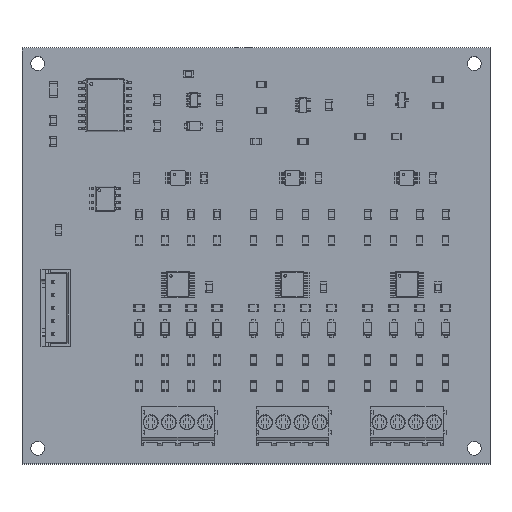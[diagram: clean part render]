
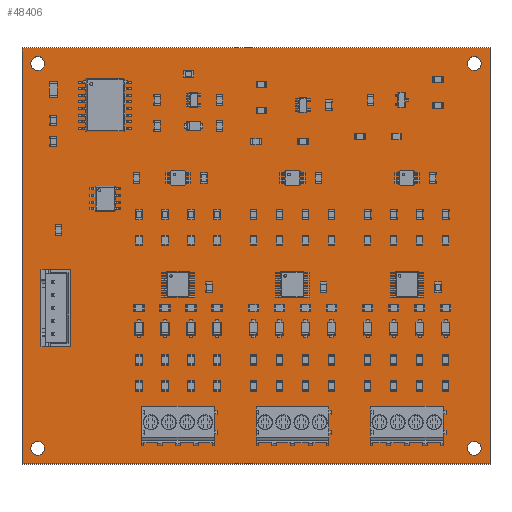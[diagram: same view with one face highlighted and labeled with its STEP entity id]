
A CAD part, top view. The second image highlights one B-rep face of the part: STEP entity #48406.
In plain terms, the highlighted planar face has unit normal (0, 0, 1).
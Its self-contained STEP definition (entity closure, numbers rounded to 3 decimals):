
#48063 = VERTEX_POINT('',#48064);
#48064 = CARTESIAN_POINT('',(90.,-80.,1.51));
#48070 = EDGE_CURVE('',#48063,#48071,#48073,.T.);
#48071 = VERTEX_POINT('',#48072);
#48072 = CARTESIAN_POINT('',(0.,-80.,1.51));
#48073 = LINE('',#48074,#48075);
#48074 = CARTESIAN_POINT('',(90.,-80.,1.51));
#48075 = VECTOR('',#48076,1.);
#48076 = DIRECTION('',(-1.,0.,0.));
#48103 = VERTEX_POINT('',#48104);
#48104 = CARTESIAN_POINT('',(90.,0.,1.51));
#48110 = EDGE_CURVE('',#48103,#48063,#48111,.T.);
#48111 = LINE('',#48112,#48113);
#48112 = CARTESIAN_POINT('',(90.,0.,1.51));
#48113 = VECTOR('',#48114,1.);
#48114 = DIRECTION('',(0.,-1.,0.));
#48132 = EDGE_CURVE('',#48071,#48133,#48135,.T.);
#48133 = VERTEX_POINT('',#48134);
#48134 = CARTESIAN_POINT('',(0.,0.,1.51));
#48135 = LINE('',#48136,#48137);
#48136 = CARTESIAN_POINT('',(0.,-80.,1.51));
#48137 = VECTOR('',#48138,1.);
#48138 = DIRECTION('',(0.,1.,0.));
#48406 = ADVANCED_FACE('',(#48407,#48418,#48429,#48440,#48451,#48462,
    #48473,#48484,#48495,#48506,#48517,#48528,#48539,#48550,#48561,
    #48572,#48583,#48594,#48605,#48616,#48627,#48638),#48649,.T.);
#48407 = FACE_BOUND('',#48408,.T.);
#48408 = EDGE_LOOP('',(#48409,#48410,#48411,#48417));
#48409 = ORIENTED_EDGE('',*,*,#48070,.F.);
#48410 = ORIENTED_EDGE('',*,*,#48110,.F.);
#48411 = ORIENTED_EDGE('',*,*,#48412,.F.);
#48412 = EDGE_CURVE('',#48133,#48103,#48413,.T.);
#48413 = LINE('',#48414,#48415);
#48414 = CARTESIAN_POINT('',(0.,0.,1.51));
#48415 = VECTOR('',#48416,1.);
#48416 = DIRECTION('',(1.,0.,0.));
#48417 = ORIENTED_EDGE('',*,*,#48132,.F.);
#48418 = FACE_BOUND('',#48419,.T.);
#48419 = EDGE_LOOP('',(#48420));
#48420 = ORIENTED_EDGE('',*,*,#48421,.T.);
#48421 = EDGE_CURVE('',#48422,#48422,#48424,.T.);
#48422 = VERTEX_POINT('',#48423);
#48423 = CARTESIAN_POINT('',(3.,-78.35,1.51));
#48424 = CIRCLE('',#48425,1.35);
#48425 = AXIS2_PLACEMENT_3D('',#48426,#48427,#48428);
#48426 = CARTESIAN_POINT('',(3.,-77.,1.51));
#48427 = DIRECTION('',(-0.,0.,-1.));
#48428 = DIRECTION('',(-0.,-1.,0.));
#48429 = FACE_BOUND('',#48430,.T.);
#48430 = EDGE_LOOP('',(#48431));
#48431 = ORIENTED_EDGE('',*,*,#48432,.T.);
#48432 = EDGE_CURVE('',#48433,#48433,#48435,.T.);
#48433 = VERTEX_POINT('',#48434);
#48434 = CARTESIAN_POINT('',(24.75,-72.6,1.51));
#48435 = CIRCLE('',#48436,0.6);
#48436 = AXIS2_PLACEMENT_3D('',#48437,#48438,#48439);
#48437 = CARTESIAN_POINT('',(24.75,-72.,1.51));
#48438 = DIRECTION('',(-0.,0.,-1.));
#48439 = DIRECTION('',(-0.,-1.,0.));
#48440 = FACE_BOUND('',#48441,.T.);
#48441 = EDGE_LOOP('',(#48442));
#48442 = ORIENTED_EDGE('',*,*,#48443,.T.);
#48443 = EDGE_CURVE('',#48444,#48444,#48446,.T.);
#48444 = VERTEX_POINT('',#48445);
#48445 = CARTESIAN_POINT('',(28.25,-72.6,1.51));
#48446 = CIRCLE('',#48447,0.6);
#48447 = AXIS2_PLACEMENT_3D('',#48448,#48449,#48450);
#48448 = CARTESIAN_POINT('',(28.25,-72.,1.51));
#48449 = DIRECTION('',(-0.,0.,-1.));
#48450 = DIRECTION('',(-0.,-1.,0.));
#48451 = FACE_BOUND('',#48452,.T.);
#48452 = EDGE_LOOP('',(#48453));
#48453 = ORIENTED_EDGE('',*,*,#48454,.T.);
#48454 = EDGE_CURVE('',#48455,#48455,#48457,.T.);
#48455 = VERTEX_POINT('',#48456);
#48456 = CARTESIAN_POINT('',(31.75,-72.6,1.51));
#48457 = CIRCLE('',#48458,0.6);
#48458 = AXIS2_PLACEMENT_3D('',#48459,#48460,#48461);
#48459 = CARTESIAN_POINT('',(31.75,-72.,1.51));
#48460 = DIRECTION('',(-0.,0.,-1.));
#48461 = DIRECTION('',(-0.,-1.,0.));
#48462 = FACE_BOUND('',#48463,.T.);
#48463 = EDGE_LOOP('',(#48464));
#48464 = ORIENTED_EDGE('',*,*,#48465,.T.);
#48465 = EDGE_CURVE('',#48466,#48466,#48468,.T.);
#48466 = VERTEX_POINT('',#48467);
#48467 = CARTESIAN_POINT('',(35.25,-72.6,1.51));
#48468 = CIRCLE('',#48469,0.6);
#48469 = AXIS2_PLACEMENT_3D('',#48470,#48471,#48472);
#48470 = CARTESIAN_POINT('',(35.25,-72.,1.51));
#48471 = DIRECTION('',(-0.,0.,-1.));
#48472 = DIRECTION('',(-0.,-1.,0.));
#48473 = FACE_BOUND('',#48474,.T.);
#48474 = EDGE_LOOP('',(#48475));
#48475 = ORIENTED_EDGE('',*,*,#48476,.T.);
#48476 = EDGE_CURVE('',#48477,#48477,#48479,.T.);
#48477 = VERTEX_POINT('',#48478);
#48478 = CARTESIAN_POINT('',(6.,-55.475,1.51));
#48479 = CIRCLE('',#48480,0.475);
#48480 = AXIS2_PLACEMENT_3D('',#48481,#48482,#48483);
#48481 = CARTESIAN_POINT('',(6.,-55.,1.51));
#48482 = DIRECTION('',(-0.,0.,-1.));
#48483 = DIRECTION('',(-0.,-1.,0.));
#48484 = FACE_BOUND('',#48485,.T.);
#48485 = EDGE_LOOP('',(#48486));
#48486 = ORIENTED_EDGE('',*,*,#48487,.T.);
#48487 = EDGE_CURVE('',#48488,#48488,#48490,.T.);
#48488 = VERTEX_POINT('',#48489);
#48489 = CARTESIAN_POINT('',(6.,-52.975,1.51));
#48490 = CIRCLE('',#48491,0.475);
#48491 = AXIS2_PLACEMENT_3D('',#48492,#48493,#48494);
#48492 = CARTESIAN_POINT('',(6.,-52.5,1.51));
#48493 = DIRECTION('',(-0.,0.,-1.));
#48494 = DIRECTION('',(-0.,-1.,0.));
#48495 = FACE_BOUND('',#48496,.T.);
#48496 = EDGE_LOOP('',(#48497));
#48497 = ORIENTED_EDGE('',*,*,#48498,.T.);
#48498 = EDGE_CURVE('',#48499,#48499,#48501,.T.);
#48499 = VERTEX_POINT('',#48500);
#48500 = CARTESIAN_POINT('',(6.,-50.475,1.51));
#48501 = CIRCLE('',#48502,0.475);
#48502 = AXIS2_PLACEMENT_3D('',#48503,#48504,#48505);
#48503 = CARTESIAN_POINT('',(6.,-50.,1.51));
#48504 = DIRECTION('',(-0.,0.,-1.));
#48505 = DIRECTION('',(-0.,-1.,0.));
#48506 = FACE_BOUND('',#48507,.T.);
#48507 = EDGE_LOOP('',(#48508));
#48508 = ORIENTED_EDGE('',*,*,#48509,.T.);
#48509 = EDGE_CURVE('',#48510,#48510,#48512,.T.);
#48510 = VERTEX_POINT('',#48511);
#48511 = CARTESIAN_POINT('',(6.,-47.975,1.51));
#48512 = CIRCLE('',#48513,0.475);
#48513 = AXIS2_PLACEMENT_3D('',#48514,#48515,#48516);
#48514 = CARTESIAN_POINT('',(6.,-47.5,1.51));
#48515 = DIRECTION('',(-0.,0.,-1.));
#48516 = DIRECTION('',(-0.,-1.,0.));
#48517 = FACE_BOUND('',#48518,.T.);
#48518 = EDGE_LOOP('',(#48519));
#48519 = ORIENTED_EDGE('',*,*,#48520,.T.);
#48520 = EDGE_CURVE('',#48521,#48521,#48523,.T.);
#48521 = VERTEX_POINT('',#48522);
#48522 = CARTESIAN_POINT('',(6.,-45.475,1.51));
#48523 = CIRCLE('',#48524,0.475);
#48524 = AXIS2_PLACEMENT_3D('',#48525,#48526,#48527);
#48525 = CARTESIAN_POINT('',(6.,-45.,1.51));
#48526 = DIRECTION('',(-0.,0.,-1.));
#48527 = DIRECTION('',(-0.,-1.,0.));
#48528 = FACE_BOUND('',#48529,.T.);
#48529 = EDGE_LOOP('',(#48530));
#48530 = ORIENTED_EDGE('',*,*,#48531,.T.);
#48531 = EDGE_CURVE('',#48532,#48532,#48534,.T.);
#48532 = VERTEX_POINT('',#48533);
#48533 = CARTESIAN_POINT('',(46.75,-72.6,1.51));
#48534 = CIRCLE('',#48535,0.6);
#48535 = AXIS2_PLACEMENT_3D('',#48536,#48537,#48538);
#48536 = CARTESIAN_POINT('',(46.75,-72.,1.51));
#48537 = DIRECTION('',(-0.,0.,-1.));
#48538 = DIRECTION('',(-0.,-1.,0.));
#48539 = FACE_BOUND('',#48540,.T.);
#48540 = EDGE_LOOP('',(#48541));
#48541 = ORIENTED_EDGE('',*,*,#48542,.T.);
#48542 = EDGE_CURVE('',#48543,#48543,#48545,.T.);
#48543 = VERTEX_POINT('',#48544);
#48544 = CARTESIAN_POINT('',(50.25,-72.6,1.51));
#48545 = CIRCLE('',#48546,0.6);
#48546 = AXIS2_PLACEMENT_3D('',#48547,#48548,#48549);
#48547 = CARTESIAN_POINT('',(50.25,-72.,1.51));
#48548 = DIRECTION('',(-0.,0.,-1.));
#48549 = DIRECTION('',(-0.,-1.,0.));
#48550 = FACE_BOUND('',#48551,.T.);
#48551 = EDGE_LOOP('',(#48552));
#48552 = ORIENTED_EDGE('',*,*,#48553,.T.);
#48553 = EDGE_CURVE('',#48554,#48554,#48556,.T.);
#48554 = VERTEX_POINT('',#48555);
#48555 = CARTESIAN_POINT('',(53.75,-72.6,1.51));
#48556 = CIRCLE('',#48557,0.6);
#48557 = AXIS2_PLACEMENT_3D('',#48558,#48559,#48560);
#48558 = CARTESIAN_POINT('',(53.75,-72.,1.51));
#48559 = DIRECTION('',(-0.,0.,-1.));
#48560 = DIRECTION('',(-0.,-1.,0.));
#48561 = FACE_BOUND('',#48562,.T.);
#48562 = EDGE_LOOP('',(#48563));
#48563 = ORIENTED_EDGE('',*,*,#48564,.T.);
#48564 = EDGE_CURVE('',#48565,#48565,#48567,.T.);
#48565 = VERTEX_POINT('',#48566);
#48566 = CARTESIAN_POINT('',(57.25,-72.6,1.51));
#48567 = CIRCLE('',#48568,0.6);
#48568 = AXIS2_PLACEMENT_3D('',#48569,#48570,#48571);
#48569 = CARTESIAN_POINT('',(57.25,-72.,1.51));
#48570 = DIRECTION('',(-0.,0.,-1.));
#48571 = DIRECTION('',(-0.,-1.,0.));
#48572 = FACE_BOUND('',#48573,.T.);
#48573 = EDGE_LOOP('',(#48574));
#48574 = ORIENTED_EDGE('',*,*,#48575,.T.);
#48575 = EDGE_CURVE('',#48576,#48576,#48578,.T.);
#48576 = VERTEX_POINT('',#48577);
#48577 = CARTESIAN_POINT('',(68.75,-72.6,1.51));
#48578 = CIRCLE('',#48579,0.6);
#48579 = AXIS2_PLACEMENT_3D('',#48580,#48581,#48582);
#48580 = CARTESIAN_POINT('',(68.75,-72.,1.51));
#48581 = DIRECTION('',(-0.,0.,-1.));
#48582 = DIRECTION('',(-0.,-1.,0.));
#48583 = FACE_BOUND('',#48584,.T.);
#48584 = EDGE_LOOP('',(#48585));
#48585 = ORIENTED_EDGE('',*,*,#48586,.T.);
#48586 = EDGE_CURVE('',#48587,#48587,#48589,.T.);
#48587 = VERTEX_POINT('',#48588);
#48588 = CARTESIAN_POINT('',(72.25,-72.6,1.51));
#48589 = CIRCLE('',#48590,0.6);
#48590 = AXIS2_PLACEMENT_3D('',#48591,#48592,#48593);
#48591 = CARTESIAN_POINT('',(72.25,-72.,1.51));
#48592 = DIRECTION('',(-0.,0.,-1.));
#48593 = DIRECTION('',(-0.,-1.,0.));
#48594 = FACE_BOUND('',#48595,.T.);
#48595 = EDGE_LOOP('',(#48596));
#48596 = ORIENTED_EDGE('',*,*,#48597,.T.);
#48597 = EDGE_CURVE('',#48598,#48598,#48600,.T.);
#48598 = VERTEX_POINT('',#48599);
#48599 = CARTESIAN_POINT('',(75.75,-72.6,1.51));
#48600 = CIRCLE('',#48601,0.6);
#48601 = AXIS2_PLACEMENT_3D('',#48602,#48603,#48604);
#48602 = CARTESIAN_POINT('',(75.75,-72.,1.51));
#48603 = DIRECTION('',(-0.,0.,-1.));
#48604 = DIRECTION('',(-0.,-1.,0.));
#48605 = FACE_BOUND('',#48606,.T.);
#48606 = EDGE_LOOP('',(#48607));
#48607 = ORIENTED_EDGE('',*,*,#48608,.T.);
#48608 = EDGE_CURVE('',#48609,#48609,#48611,.T.);
#48609 = VERTEX_POINT('',#48610);
#48610 = CARTESIAN_POINT('',(87.,-78.35,1.51));
#48611 = CIRCLE('',#48612,1.35);
#48612 = AXIS2_PLACEMENT_3D('',#48613,#48614,#48615);
#48613 = CARTESIAN_POINT('',(87.,-77.,1.51));
#48614 = DIRECTION('',(-0.,0.,-1.));
#48615 = DIRECTION('',(-0.,-1.,0.));
#48616 = FACE_BOUND('',#48617,.T.);
#48617 = EDGE_LOOP('',(#48618));
#48618 = ORIENTED_EDGE('',*,*,#48619,.T.);
#48619 = EDGE_CURVE('',#48620,#48620,#48622,.T.);
#48620 = VERTEX_POINT('',#48621);
#48621 = CARTESIAN_POINT('',(79.25,-72.6,1.51));
#48622 = CIRCLE('',#48623,0.6);
#48623 = AXIS2_PLACEMENT_3D('',#48624,#48625,#48626);
#48624 = CARTESIAN_POINT('',(79.25,-72.,1.51));
#48625 = DIRECTION('',(-0.,0.,-1.));
#48626 = DIRECTION('',(-0.,-1.,0.));
#48627 = FACE_BOUND('',#48628,.T.);
#48628 = EDGE_LOOP('',(#48629));
#48629 = ORIENTED_EDGE('',*,*,#48630,.T.);
#48630 = EDGE_CURVE('',#48631,#48631,#48633,.T.);
#48631 = VERTEX_POINT('',#48632);
#48632 = CARTESIAN_POINT('',(3.,-4.35,1.51));
#48633 = CIRCLE('',#48634,1.35);
#48634 = AXIS2_PLACEMENT_3D('',#48635,#48636,#48637);
#48635 = CARTESIAN_POINT('',(3.,-3.,1.51));
#48636 = DIRECTION('',(-0.,0.,-1.));
#48637 = DIRECTION('',(-0.,-1.,0.));
#48638 = FACE_BOUND('',#48639,.T.);
#48639 = EDGE_LOOP('',(#48640));
#48640 = ORIENTED_EDGE('',*,*,#48641,.T.);
#48641 = EDGE_CURVE('',#48642,#48642,#48644,.T.);
#48642 = VERTEX_POINT('',#48643);
#48643 = CARTESIAN_POINT('',(87.,-4.35,1.51));
#48644 = CIRCLE('',#48645,1.35);
#48645 = AXIS2_PLACEMENT_3D('',#48646,#48647,#48648);
#48646 = CARTESIAN_POINT('',(87.,-3.,1.51));
#48647 = DIRECTION('',(-0.,0.,-1.));
#48648 = DIRECTION('',(-0.,-1.,0.));
#48649 = PLANE('',#48650);
#48650 = AXIS2_PLACEMENT_3D('',#48651,#48652,#48653);
#48651 = CARTESIAN_POINT('',(0.,0.,1.51));
#48652 = DIRECTION('',(0.,0.,1.));
#48653 = DIRECTION('',(1.,0.,-0.));
